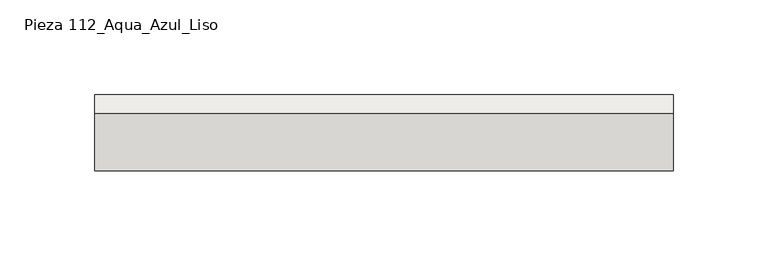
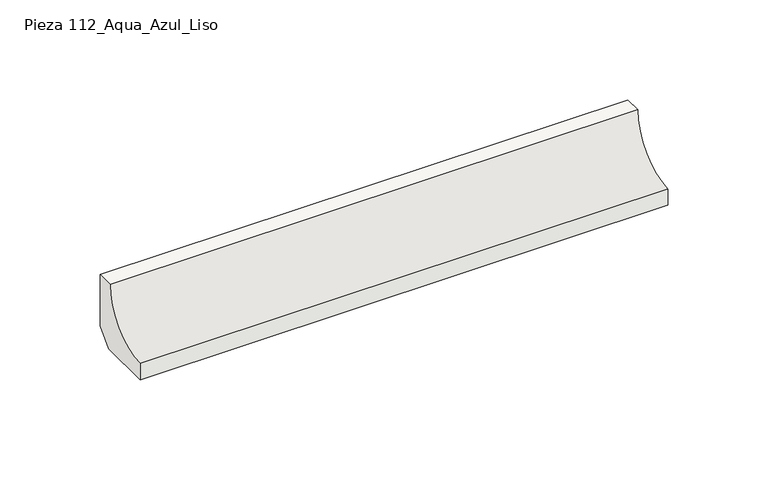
"""IFC4 building model written with IfcOpenShell, lengths in millimetres: slab geometry, ROSA GRES_112 : Pieza 112_Aqua_Azul_Liso."""

from ifc_helpers import new_model, si_unit, point, frame, frame_2d, origin, place, context, project, spatial, polyline, circle_curve, trimmed, segment, composite_curve, outline, extrude, source, transform, mapped, element, save


def pieza_112_aqua_azul_liso_ccd9703d(model_context):
    return source(origin(), model_context, "Body", "SweptSolid", [
        extrude(outline(composite_curve([segment(polyline([(0.0, 8.7114978), (-8.7114978, 0.0), (-40.0, 0.0), (-40.0, 9.9734114)]), True, "CONTINUOUS"), segment(trimmed(circle_curve(frame_2d((-39.9955547, 39.9955547)), 30.0221435), [point((-40.0, 9.9734114))], [point((-9.9734114, 40.0))], True, "CARTESIAN"), True, "CONTINUOUS"), segment(polyline([(-9.9734114, 40.0), (0.0, 40.0), (0.0, 8.7114978)]), True, "CONTINUOUS")], self_intersect=False)), frame((0.0, 0.0, 0.0), z_axis=(1.0, 0.0, 0.0), x_axis=(0.0, 1.0, 0.0)), (0.0, 0.0, 1.0), 304.5818808),
    ])


if __name__ == "__main__":
    model = new_model("IFC4")
    model_context = context("Model", 3, world=origin())
    ifc_project = project(units=[si_unit("LENGTHUNIT", "METRE", prefix="MILLI")], contexts=[model_context])
    site = spatial("IfcSite", under=ifc_project)
    building = spatial("IfcBuilding", under=site)
    placement = place(None, origin())
    pieza_112_aqua_azul_liso_shape = pieza_112_aqua_azul_liso_ccd9703d(model_context)
    element("IfcSlab", 1, ObjectType="ROSA GRES_112 : Pieza 112_Aqua_Azul_Liso", at=placement, inside=building, context=model_context, shape_type="MappedRepresentation", body=[
        mapped(pieza_112_aqua_azul_liso_shape, transform((0.0, 0.0, 0.0), x_axis=(1.0, 0.0, 0.0), y_axis=(0.0, 1.0, 0.0), z_axis=(0.0, 0.0, 1.0))),
    ])
    save(model, "model.ifc")
